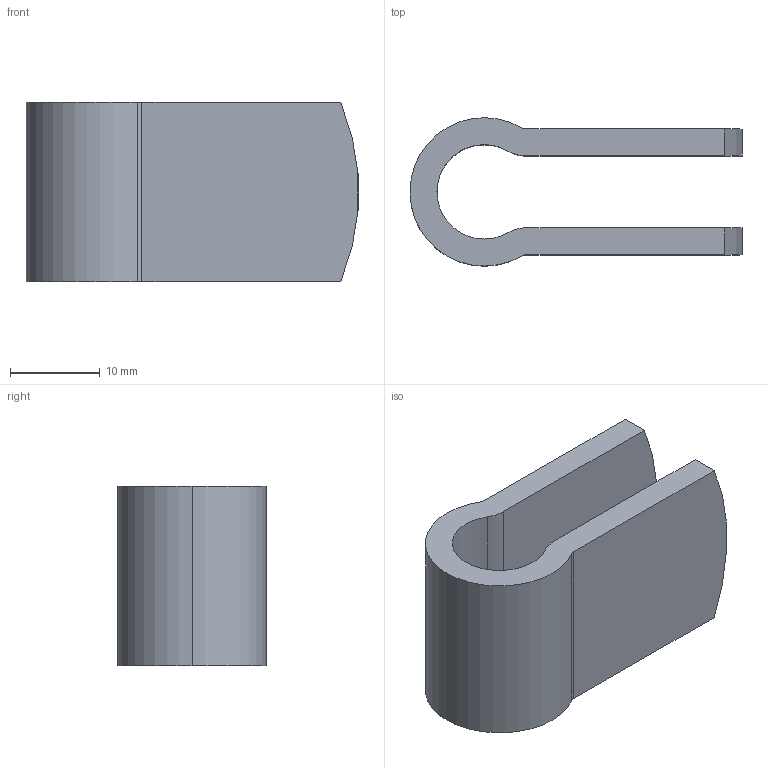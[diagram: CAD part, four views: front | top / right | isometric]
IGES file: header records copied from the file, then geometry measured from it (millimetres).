
Start section: 3D InterOp IGES (v. 2020 1.0.1), Spatial Corp. Copyright (c) 1999-2017.
Global section: file name: 941-4-g.igs; native system: Spatial Corp.; preprocessor: 3D InterOp ACIS/IGES; author: TraceParts; organization: TraceParts S.A.; date: 20231205.144321; units: millimetre
Bounding box: 36.92 x 16.5 x 20 mm (x, y, z)
Surface area: 3687.5 mm2 (no closed solid volume)
Topology: 0 solids, 0 shells, 16 faces, 84 edges, 84 vertices
Faces by surface type: revolution 10, extrusion 6
